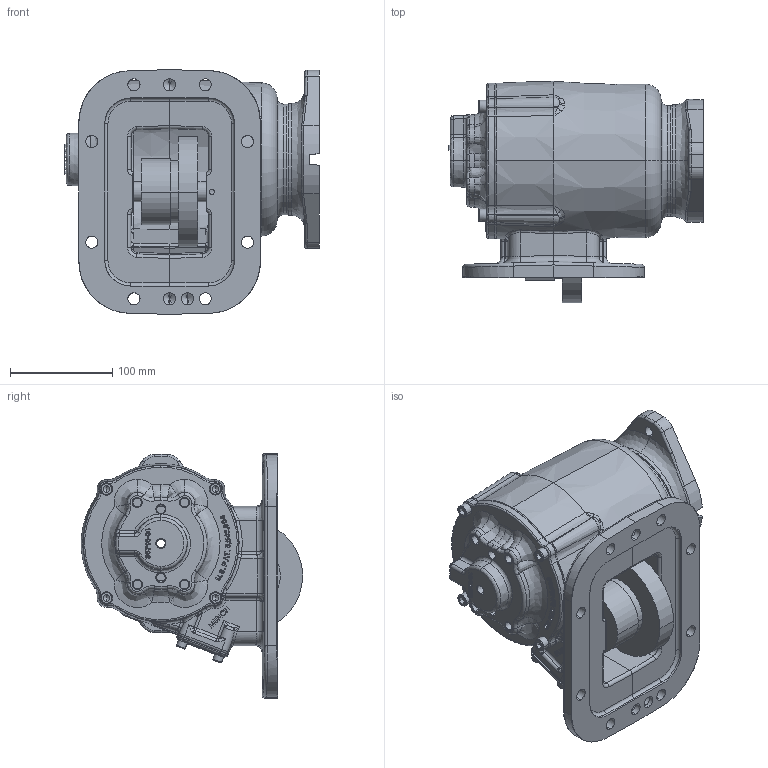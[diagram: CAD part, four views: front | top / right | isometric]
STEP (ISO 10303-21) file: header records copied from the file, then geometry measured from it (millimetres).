
FILE_DESCRIPTION (( 'STEP AP203' ), '1' );
FILE_NAME ('CS8S-XXXXX-X4SX.STEP', '2012-06-12T14:47:52', ( '' ), ( '' ), 'SwSTEP 2.0', 'SolidWorks 2012', '' );
FILE_SCHEMA (( 'CONFIG_CONTROL_DESIGN' ));
Products named in the file (3): CS8S-XXXXX-X4SX; 14t35464; CS8S-XXXXX-X4XX
Assembly tree (2 placements, depth 2):
  CS8S-XXXXX-X4SX
    CS8S-XXXXX-X4XX
    14t35464
Bounding box: 249.19 x 216.75 x 239.61 mm (x, y, z)
Volume: 1864349.2 mm3; surface area: 439363.1 mm2
Topology: 2 solids, 14 shells, 1969 faces, 4986 edges, 3082 vertices
Faces by surface type: bspline 725, plane 521, cylinder 457, cone 184, torus 74, sphere 8
Entity records: 100423 total; most frequent: CARTESIAN_POINT 58221, ORIENTED_EDGE 9830, DIRECTION 6954, EDGE_CURVE 4915, VERTEX_POINT 3082, AXIS2_PLACEMENT_3D 2516, EDGE_LOOP 2179, FACE_OUTER_BOUND 1969
